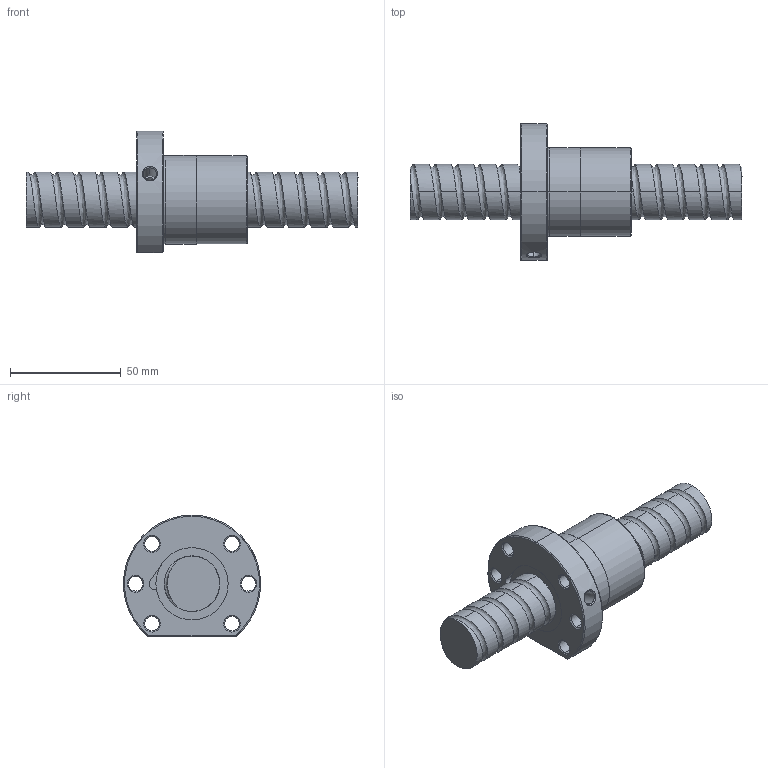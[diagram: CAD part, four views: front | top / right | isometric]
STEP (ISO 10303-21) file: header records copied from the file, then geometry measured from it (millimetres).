
FILE_DESCRIPTION (( 'STEP AP214' ), '1' );
FILE_NAME ('FSDC02510T3-B-B.STEP', '2010-06-25T11:30:15', ( 'XPAUTO' ), ( 'XPAUTO' ), 'SwSTEP 2.0', 'SolidWorks 2007', '' );
FILE_SCHEMA (( 'AUTOMOTIVE_DESIGN' ));
Length unit declared in the file: millimetre
Products named in the file (3): FSDC02510T3-B-B; FSDC02510T3-B-B.sldasm-Part-1_預設; FSDC02510T3-B-B.sldasm-Part-2_預設
Assembly tree (2 placements, depth 2):
  FSDC02510T3-B-B
    FSDC02510T3-B-B.sldasm-Part-2_預設
    FSDC02510T3-B-B.sldasm-Part-1_預設
Bounding box: 150 x 61.86 x 55 mm (x, y, z)
Volume: 123596.9 mm3; surface area: 31188.7 mm2
Topology: 2 solids, 2 shells, 124 faces, 309 edges, 194 vertices
Faces by surface type: cylinder 71, cone 24, plane 19, bspline 5, torus 5
Entity records: 25134 total; most frequent: CARTESIAN_POINT 22161, ORIENTED_EDGE 618, DIRECTION 583, EDGE_CURVE 309, AXIS2_PLACEMENT_3D 238, VERTEX_POINT 194, EDGE_LOOP 145, ADVANCED_FACE 124
